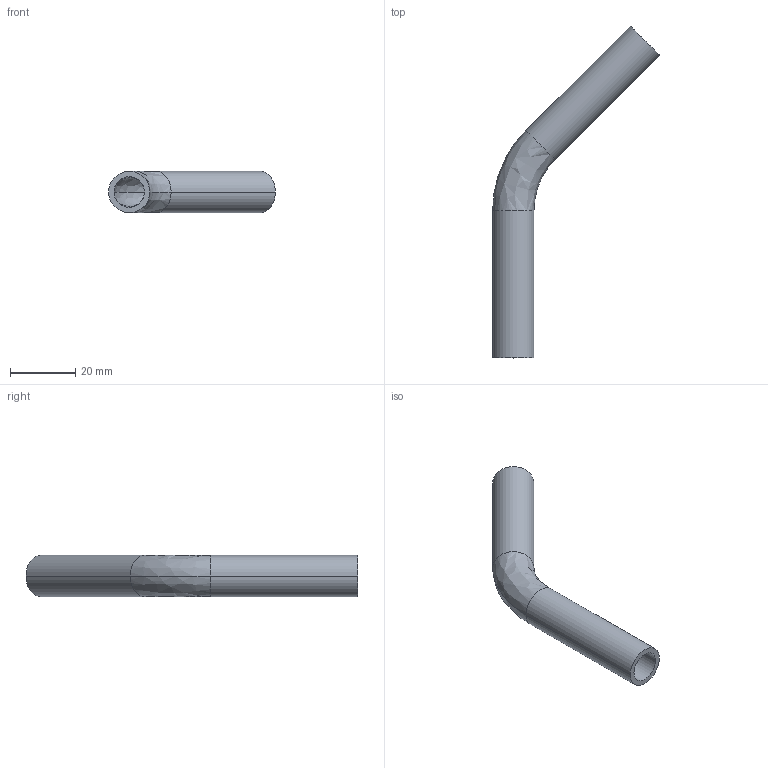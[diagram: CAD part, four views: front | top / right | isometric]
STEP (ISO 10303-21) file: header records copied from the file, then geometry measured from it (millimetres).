
FILE_DESCRIPTION (( 'STEP AP214' ), '1' );
FILE_NAME ('TE2KS6L.5-...STEP', '2016-05-22T06:41:11', ( 'eran' ), ( '' ), 'SwSTEP 2.0', 'SolidWorks 2016', '' );
FILE_SCHEMA (( 'AUTOMOTIVE_DESIGN' ));
Length unit declared in the file: millimetre
Products named in the file (1): TE2KS6L.5-..
Bounding box: 51.29 x 102.14 x 12.7 mm (x, y, z)
Volume: 6482.2 mm3; surface area: 7971.8 mm2
Topology: 1 solids, 1 shells, 14 faces, 28 edges, 16 vertices
Faces by surface type: cylinder 8, bspline 4, plane 2
Entity records: 450 total; most frequent: CARTESIAN_POINT 119, DIRECTION 70, ORIENTED_EDGE 56, AXIS2_PLACEMENT_3D 31, EDGE_CURVE 28, CIRCLE 20, EDGE_LOOP 16, VERTEX_POINT 16
